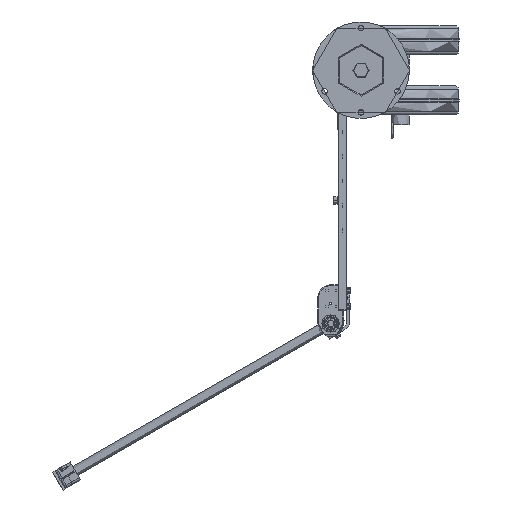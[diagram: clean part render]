
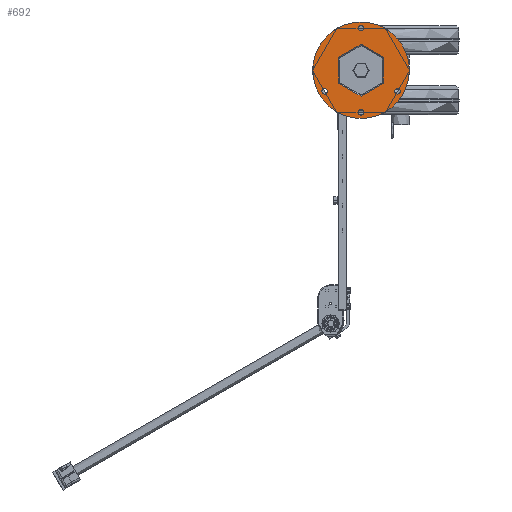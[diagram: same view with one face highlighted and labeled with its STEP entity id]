
A CAD part, front view. The second image highlights one B-rep face of the part: STEP entity #692.
In plain terms, the highlighted planar face has unit normal (0, -1, 0).
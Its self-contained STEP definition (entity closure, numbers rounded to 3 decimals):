
#46=CARTESIAN_POINT('',(56.292,0.,-32.5));
#47=DIRECTION('',(0.,1.,0.));
#48=DIRECTION('',(0.,0.,1.));
#49=AXIS2_PLACEMENT_3D('',#46,#47,#48);
#55=CARTESIAN_POINT('',(56.292,0.,-32.5));
#56=DIRECTION('',(0.,1.,0.));
#57=DIRECTION('',(0.,0.,-1.));
#58=AXIS2_PLACEMENT_3D('',#55,#56,#57);
#63=CARTESIAN_POINT('',(-56.292,0.,-32.5));
#64=DIRECTION('',(0.,1.,0.));
#65=DIRECTION('',(0.,0.,1.));
#66=AXIS2_PLACEMENT_3D('',#63,#64,#65);
#71=CARTESIAN_POINT('',(-56.292,0.,-32.5));
#72=DIRECTION('',(0.,1.,0.));
#73=DIRECTION('',(0.,0.,-1.));
#74=AXIS2_PLACEMENT_3D('',#71,#72,#73);
#79=CARTESIAN_POINT('',(0.,0.,65.));
#80=DIRECTION('',(0.,1.,0.));
#81=DIRECTION('',(0.,0.,1.));
#82=AXIS2_PLACEMENT_3D('',#79,#80,#81);
#87=CARTESIAN_POINT('',(0.,0.,65.));
#88=DIRECTION('',(0.,1.,0.));
#89=DIRECTION('',(0.,0.,-1.));
#90=AXIS2_PLACEMENT_3D('',#87,#88,#89);
#95=CARTESIAN_POINT('',(0.,0.,-65.));
#96=DIRECTION('',(0.,1.,0.));
#97=DIRECTION('',(0.,0.,1.));
#98=AXIS2_PLACEMENT_3D('',#95,#96,#97);
#103=CARTESIAN_POINT('',(0.,0.,-65.));
#104=DIRECTION('',(0.,1.,0.));
#105=DIRECTION('',(0.,0.,-1.));
#106=AXIS2_PLACEMENT_3D('',#103,#104,#105);
#111=CARTESIAN_POINT('',(0.,0.,0.));
#112=DIRECTION('',(0.,1.,0.));
#113=DIRECTION('',(0.,0.,1.));
#114=AXIS2_PLACEMENT_3D('',#111,#112,#113);
#119=CARTESIAN_POINT('',(0.,0.,0.));
#120=DIRECTION('',(0.,1.,0.));
#121=DIRECTION('',(0.,0.,-1.));
#122=AXIS2_PLACEMENT_3D('',#119,#120,#121);
#127=CARTESIAN_POINT('',(0.,0.,
0.));
#128=DIRECTION('',(0.,1.,0.));
#129=DIRECTION('',(1.,0.,0.));
#130=AXIS2_PLACEMENT_3D('',#127,#128,#129);
#135=CARTESIAN_POINT('',(0.,0.,
0.));
#136=DIRECTION('',(0.,1.,0.));
#137=DIRECTION('',(-1.,0.,0.));
#138=AXIS2_PLACEMENT_3D('',#135,#136,#137);
#567=CARTESIAN_POINT('',(56.292,0.,-28.25));
#568=CARTESIAN_POINT('',(56.292,0.,-36.75));
#569=VERTEX_POINT('',#567);
#570=VERTEX_POINT('',#568);
#571=CARTESIAN_POINT('',(-56.292,0.,-28.25));
#572=CARTESIAN_POINT('',(-56.292,0.,-36.75));
#573=VERTEX_POINT('',#571);
#574=VERTEX_POINT('',#572);
#575=CARTESIAN_POINT('',(0.,0.,69.25));
#576=CARTESIAN_POINT('',(0.,0.,60.75));
#577=VERTEX_POINT('',#575);
#578=VERTEX_POINT('',#576);
#595=CARTESIAN_POINT('',(0.,0.,40.));
#596=CARTESIAN_POINT('',(0.,0.,-40.));
#597=VERTEX_POINT('',#595);
#598=VERTEX_POINT('',#596);
#623=CARTESIAN_POINT('',(74.5,0.,0.));
#624=CARTESIAN_POINT('',(-74.5,0.,
0.));
#625=VERTEX_POINT('',#623);
#626=VERTEX_POINT('',#624);
#643=CARTESIAN_POINT('',(0.,0.,-60.75));
#644=CARTESIAN_POINT('',(0.,0.,-69.25));
#645=VERTEX_POINT('',#643);
#646=VERTEX_POINT('',#644);
#651=CARTESIAN_POINT('',(0.,0.,0.));
#652=DIRECTION('',(0.,-1.,0.));
#653=DIRECTION('',(-1.,0.,0.));
#654=AXIS2_PLACEMENT_3D('',#651,#652,#653);
#655=PLANE('',#654);
#657=ORIENTED_EDGE('',*,*,#656,.T.);
#659=ORIENTED_EDGE('',*,*,#658,.T.);
#660=EDGE_LOOP('',(#657,#659));
#661=FACE_OUTER_BOUND('',#660,.F.);
#663=ORIENTED_EDGE('',*,*,#662,.F.);
#665=ORIENTED_EDGE('',*,*,#664,.F.);
#666=EDGE_LOOP('',(#663,#665));
#667=FACE_BOUND('',#666,.F.);
#669=ORIENTED_EDGE('',*,*,#668,.F.);
#671=ORIENTED_EDGE('',*,*,#670,.F.);
#672=EDGE_LOOP('',(#669,#671));
#673=FACE_BOUND('',#672,.F.);
#675=ORIENTED_EDGE('',*,*,#674,.F.);
#677=ORIENTED_EDGE('',*,*,#676,.F.);
#678=EDGE_LOOP('',(#675,#677));
#679=FACE_BOUND('',#678,.F.);
#681=ORIENTED_EDGE('',*,*,#680,.F.);
#683=ORIENTED_EDGE('',*,*,#682,.F.);
#684=EDGE_LOOP('',(#681,#683));
#685=FACE_BOUND('',#684,.F.);
#687=ORIENTED_EDGE('',*,*,#686,.F.);
#689=ORIENTED_EDGE('',*,*,#688,.F.);
#690=EDGE_LOOP('',(#687,#689));
#691=FACE_BOUND('',#690,.F.);
#50=CIRCLE('',#49,4.25);
#59=CIRCLE('',#58,4.25);
#67=CIRCLE('',#66,4.25);
#75=CIRCLE('',#74,4.25);
#83=CIRCLE('',#82,4.25);
#91=CIRCLE('',#90,4.25);
#99=CIRCLE('',#98,4.25);
#107=CIRCLE('',#106,4.25);
#115=CIRCLE('',#114,40.);
#123=CIRCLE('',#122,40.);
#131=CIRCLE('',#130,74.5);
#139=CIRCLE('',#138,74.5);
#656=EDGE_CURVE('',#625,#626,#131,.T.);
#658=EDGE_CURVE('',#626,#625,#139,.T.);
#662=EDGE_CURVE('',#573,#574,#67,.T.);
#664=EDGE_CURVE('',#574,#573,#75,.T.);
#668=EDGE_CURVE('',#577,#578,#83,.T.);
#670=EDGE_CURVE('',#578,#577,#91,.T.);
#674=EDGE_CURVE('',#645,#646,#99,.T.);
#676=EDGE_CURVE('',#646,#645,#107,.T.);
#680=EDGE_CURVE('',#597,#598,#115,.T.);
#682=EDGE_CURVE('',#598,#597,#123,.T.);
#686=EDGE_CURVE('',#569,#570,#50,.T.);
#688=EDGE_CURVE('',#570,#569,#59,.T.);
#692=ADVANCED_FACE('',(#661,#667,#673,#679,#685,#691),#655,.T.);
